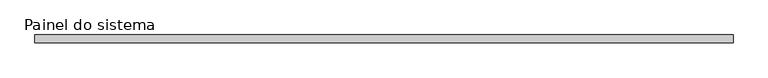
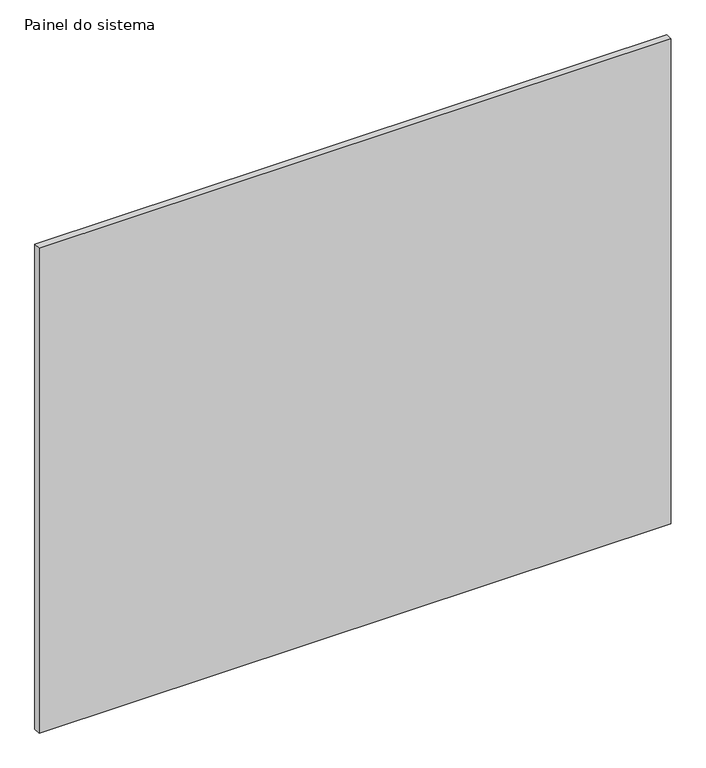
"""IFC4 building model written with IfcOpenShell, lengths in millimetres: plate geometry, Painel do sistema : ALAMBRADO."""

from ifc_helpers import new_model, si_unit, origin, origin_with_axes, place, context, project, spatial, polyline, outline, extrude, source, transform, mapped, element, save


def painel_do_sistema_5932a089(model_context):
    return source(origin(), model_context, "Body", "SweptSolid", [
        extrude(outline(polyline([(1110.0000001, 24.5), (-1110.0000001, 24.5), (-1110.0000001, 49.5), (1110.0000001, 49.5), (1110.0000001, 24.5)])), origin_with_axes(), (0.0, 0.0, 1.0), 1800.0),
    ])


if __name__ == "__main__":
    model = new_model("IFC4")
    model_context = context("Model", 3, world=origin())
    ifc_project = project(units=[si_unit("LENGTHUNIT", "METRE", prefix="MILLI")], contexts=[model_context])
    site = spatial("IfcSite", under=ifc_project)
    building = spatial("IfcBuilding", under=site)
    placement = place(None, origin())
    painel_do_sistema_shape = painel_do_sistema_5932a089(model_context)
    element("IfcPlate", 1, ObjectType="Painel do sistema : ALAMBRADO", at=placement, inside=building, context=model_context, shape_type="MappedRepresentation", body=[
        mapped(painel_do_sistema_shape, transform((0.0, 0.0, 0.0), x_axis=(1.0, 0.0, 0.0), y_axis=(0.0, 1.0, 0.0), z_axis=(0.0, 0.0, 1.0))),
    ])
    save(model, "model.ifc")
